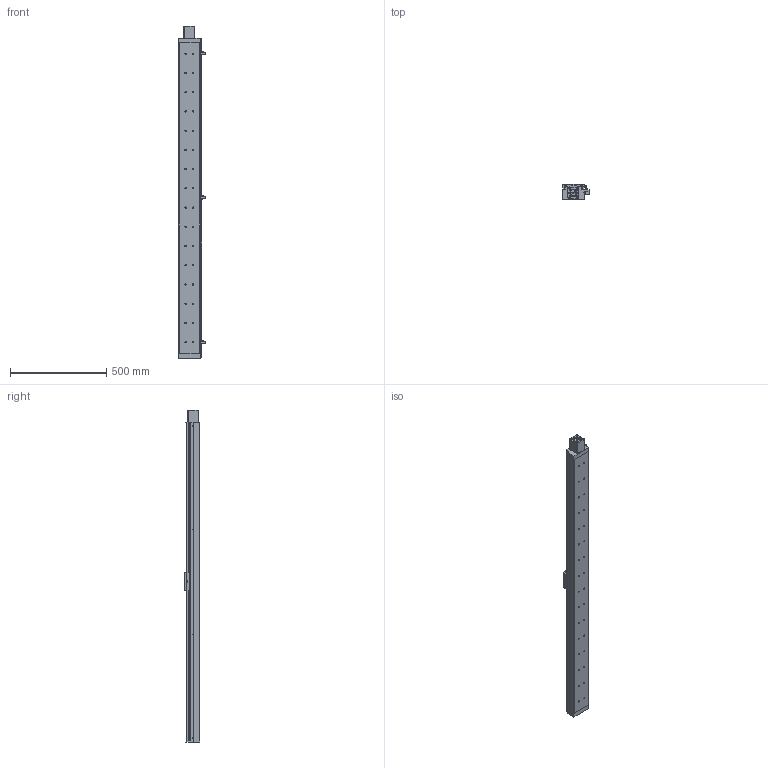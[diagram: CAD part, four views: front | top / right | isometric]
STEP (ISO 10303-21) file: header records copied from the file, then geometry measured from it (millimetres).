
FILE_DESCRIPTION((''),'2;1');
FILE_NAME('E:\libraries\UIA actuator library 2009\standard actuator\UIA110R12(15)DC\UIA110R12(15)DC-ball screw dia.20\UIA110R12(15)DC-_ _ _-R20_ _-M23 step file 20Apr16\UIA110R12(15)DC-1500-R20_ _-M23-P13-C10-S.stp','2016-04-22T13:20:07',('h029'),(''),'Autodesk Inventor 11','Autodesk Inventor 11','');
FILE_SCHEMA(('AUTOMOTIVE_DESIGN { 1 0 10303 214 1 1 1 1 }'));
Length unit declared in the file: millimetre
Products named in the file (10): UIA110R12(15)DC-1500, ball screw dia.20; body, UIA110R12(15)DC-1500,ball screw dia.20; Carriage, UIA110R12(15)DC; Sen Switch, UIA110R12(15)DC; sensor rail, UIA110R12(15)DC-1500; SOH-32C; SOH-32C-3; SOH-32C-1; SOH-32C-2; M23 motor mount
Assembly tree (9 placements, depth 3):
  UIA110R12(15)DC-1500, ball screw dia.20
    body, UIA110R12(15)DC-1500,ball screw dia.20
    Carriage, UIA110R12(15)DC
    Sen Switch, UIA110R12(15)DC
    sensor rail, UIA110R12(15)DC-1500
    SOH-32C
      SOH-32C-3
      SOH-32C-1
      SOH-32C-2
    M23 motor mount
Bounding box: 136.5 x 81 x 1727 mm (x, y, z)
Volume: 12382887.5 mm3; surface area: 902901.7 mm2
Topology: 8 solids, 8 shells, 707 faces, 1821 edges, 1195 vertices
Faces by surface type: plane 442, cylinder 163, bspline 83, cone 19
Full cylindrical faces by diameter (mm): 2.459 x4, 3.242 x4, 4 x6, 4.5 x4, 5.5 x3, 6.35 x1, 6.5 x32, 7.5 x4, 9.5 x6, 10 x2, 10.5 x32, 25 x1, 32 x3, 37 x1, 38.1 x1, 42 x1, 42.01 x1, 43.5 x1
Entity records: 21820 total; most frequent: CARTESIAN_POINT 5373, DIRECTION 3343, ORIENTED_EDGE 3094, EDGE_CURVE 1547, AXIS2_PLACEMENT_3D 1170, VERTEX_POINT 1118, EDGE_LOOP 1017, VECTOR 1003
